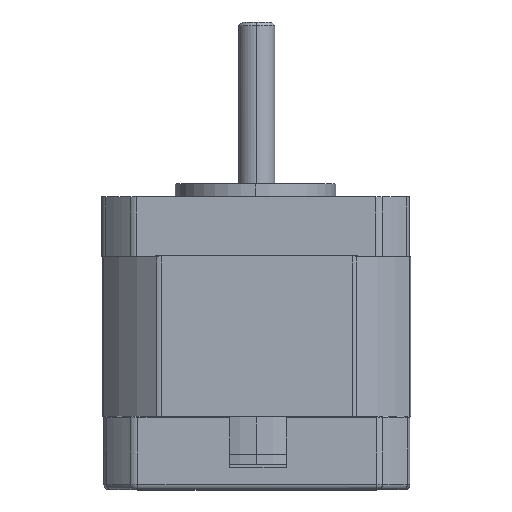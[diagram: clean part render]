
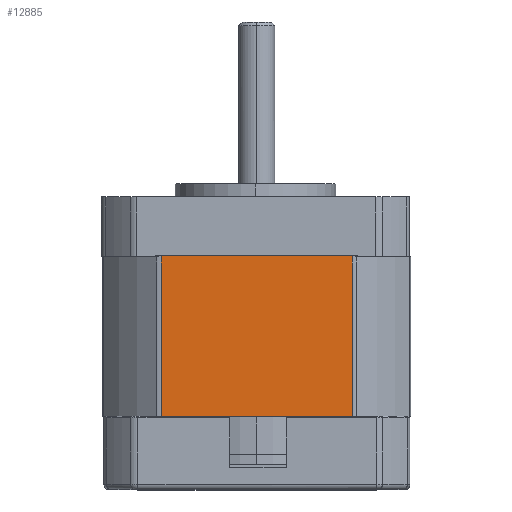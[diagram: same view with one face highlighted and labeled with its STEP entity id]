
A CAD part, top view. The second image highlights one B-rep face of the part: STEP entity #12885.
In plain terms, the highlighted planar face has unit normal (0, 0, 1).
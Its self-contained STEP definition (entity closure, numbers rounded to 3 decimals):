
#474 = EDGE_CURVE ( 'NONE', #9735, #10205, #10617, .T. ) ;
#936 = ORIENTED_EDGE ( 'NONE', *, *, #6143, .T. ) ;
#1216 = CARTESIAN_POINT ( 'NONE',  ( 0., 0., 21.094 ) ) ;
#2756 = ORIENTED_EDGE ( 'NONE', *, *, #474, .F. ) ;
#2831 = EDGE_CURVE ( 'NONE', #11058, #9735, #21930, .T. ) ;
#5162 = CARTESIAN_POINT ( 'NONE',  ( 0., 22., 21.094 ) ) ;
#5603 = DIRECTION ( 'NONE',  ( -1., 0., 0. ) ) ;
#6069 = VECTOR ( 'NONE', #9893, 1000. ) ;
#6143 = EDGE_CURVE ( 'NONE', #11913, #10205, #12620, .T. ) ;
#7365 = AXIS2_PLACEMENT_3D ( 'NONE', #19281, #15861, #5603 ) ;
#8217 = VECTOR ( 'NONE', #17158, 1000. ) ;
#9735 = VERTEX_POINT ( 'NONE', #14661 ) ;
#9893 = DIRECTION ( 'NONE',  ( 0., -1., 0. ) ) ;
#10205 = VERTEX_POINT ( 'NONE', #17899 ) ;
#10617 = LINE ( 'NONE', #19105, #6069 ) ;
#11058 = VERTEX_POINT ( 'NONE', #13313 ) ;
#11154 = EDGE_CURVE ( 'NONE', #11058, #11913, #17814, .T. ) ;
#11265 = CARTESIAN_POINT ( 'NONE',  ( -13.1, 0., 21.094 ) ) ;
#11481 = DIRECTION ( 'NONE',  ( 1., 0., 0. ) ) ;
#11913 = VERTEX_POINT ( 'NONE', #11265 ) ;
#12620 = LINE ( 'NONE', #1216, #13686 ) ;
#12885 = ADVANCED_FACE ( 'NONE', ( #20971 ), #14156, .F. ) ;
#13220 = VECTOR ( 'NONE', #22265, 1000. ) ;
#13313 = CARTESIAN_POINT ( 'NONE',  ( -13.1, 22., 21.094 ) ) ;
#13600 = CARTESIAN_POINT ( 'NONE',  ( -13.1, 22., 21.094 ) ) ;
#13686 = VECTOR ( 'NONE', #11481, 1000. ) ;
#14156 = PLANE ( 'NONE',  #7365 ) ;
#14661 = CARTESIAN_POINT ( 'NONE',  ( 13.093, 22., 21.094 ) ) ;
#14996 = ORIENTED_EDGE ( 'NONE', *, *, #2831, .F. ) ;
#15861 = DIRECTION ( 'NONE',  ( 0., 0., -1. ) ) ;
#17158 = DIRECTION ( 'NONE',  ( 1., 0., 0. ) ) ;
#17755 = ORIENTED_EDGE ( 'NONE', *, *, #11154, .T. ) ;
#17814 = LINE ( 'NONE', #13600, #13220 ) ;
#17899 = CARTESIAN_POINT ( 'NONE',  ( 13.093, 0., 21.094 ) ) ;
#19105 = CARTESIAN_POINT ( 'NONE',  ( 13.093, 22., 21.094 ) ) ;
#19228 = EDGE_LOOP ( 'NONE', ( #936, #2756, #14996, #17755 ) ) ;
#19281 = CARTESIAN_POINT ( 'NONE',  ( 0., 22., 21.094 ) ) ;
#20971 = FACE_OUTER_BOUND ( 'NONE', #19228, .T. ) ;
#21930 = LINE ( 'NONE', #5162, #8217 ) ;
#22265 = DIRECTION ( 'NONE',  ( 0., -1., 0. ) ) ;
